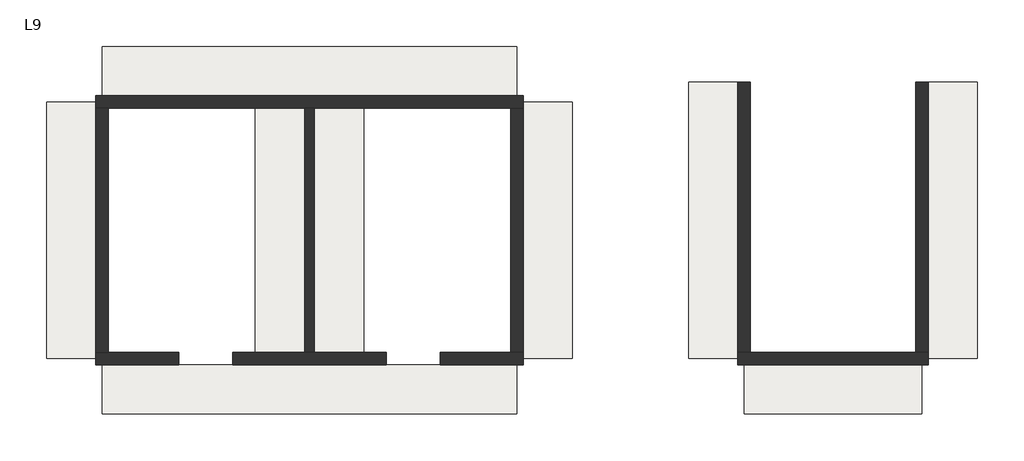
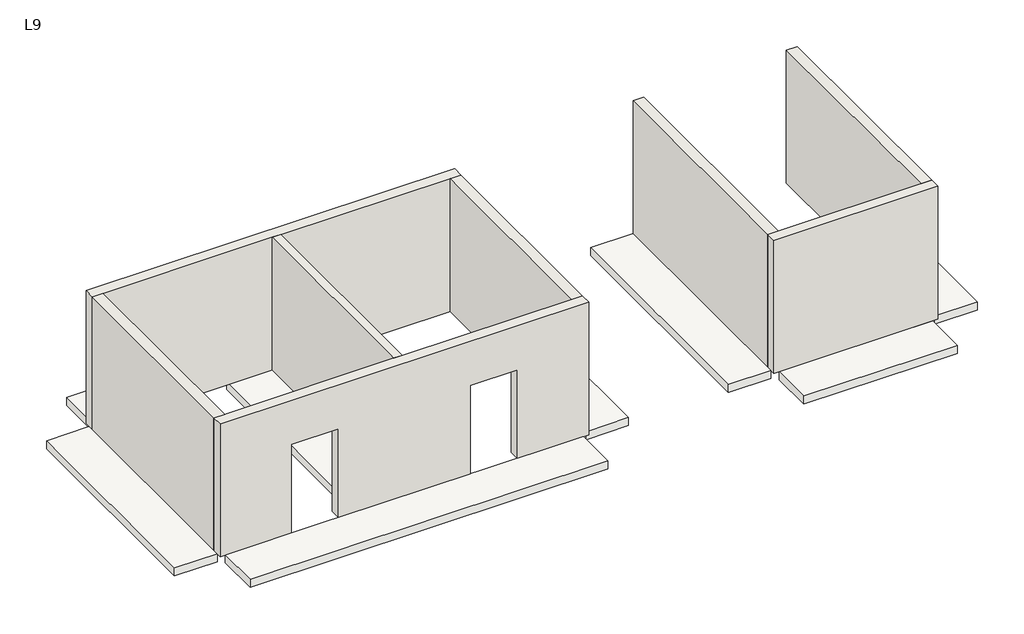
# One storey: 9 slabs, 8 walls.
"""IFC4 building model written with IfcOpenShell, lengths in millimetres."""

from ifc_helpers import new_model, si_unit, frame, origin, place, context, project, spatial, polyline, outline, extrude, faceted_brep, element, save

model = new_model("IFC4")

# Units and contexts
model_context = context("Model", 3, world=origin())
ifc_project = project(units=[si_unit("LENGTHUNIT", "METRE", prefix="MILLI")], contexts=[model_context])

# Site, building, storey
site = spatial("IfcSite", under=ifc_project)
building = spatial("IfcBuilding", under=site)
storey = spatial("IfcBuildingStorey", under=building, Name="L9", Elevation=27600.0)

# Slabs
placement = place(None, origin())
element("IfcSlab", 1, ObjectType="BS-Sàn 200", at=placement, inside=storey, context=model_context, shape_type="SweptSolid", body=[
    extrude(outline(polyline([(0.0, 6325.0), (8400.0, 6325.0), (8400.0, 5325.0), (0.0, 5325.0), (0.0, 6325.0)])), frame((0.0, 0.0, 27400.0), z_axis=(0.0, 0.0, 1.0), x_axis=(1.0, 0.0, 0.0)), (0.0, 0.0, 1.0), 200.0),
])
element("IfcSlab", 2, ObjectType="BS-Sàn 200", at=placement, inside=storey, context=model_context, shape_type="SweptSolid", body=[
    extrude(outline(polyline([(16725.0, 5600.0), (17725.0, 5600.0), (17725.0, 0.0), (16725.0, 0.0), (16725.0, 5600.0)])), frame((0.0, 0.0, 27400.0), z_axis=(0.0, 0.0, 1.0), x_axis=(1.0, 0.0, 0.0)), (0.0, 0.0, 1.0), 200.0),
])
element("IfcSlab", 3, ObjectType="BS-Sàn 200", at=placement, inside=storey, context=model_context, shape_type="SweptSolid", body=[
    extrude(outline(polyline([(11875.0, 5600.0), (12875.0, 5600.0), (12875.0, 0.0), (11875.0, 0.0), (11875.0, 5600.0)])), frame((0.0, 0.0, 27400.0), z_axis=(0.0, 0.0, 1.0), x_axis=(1.0, 0.0, 0.0)), (0.0, 0.0, 1.0), 200.0),
])
element("IfcSlab", 4, ObjectType="BS-Sàn 200", at=placement, inside=storey, context=model_context, shape_type="SweptSolid", body=[
    extrude(outline(polyline([(4300.0, 5200.0), (5300.0, 5200.0), (5300.0, 0.0), (4300.0, 0.0), (4300.0, 5200.0)])), frame((0.0, 0.0, 27400.0), z_axis=(0.0, 0.0, 1.0), x_axis=(1.0, 0.0, 0.0)), (0.0, 0.0, 1.0), 200.0),
])
element("IfcSlab", 5, ObjectType="BS-Sàn 200", at=placement, inside=storey, context=model_context, shape_type="SweptSolid", body=[
    extrude(outline(polyline([(3100.0, 5200.0), (4100.0, 5200.0), (4100.0, 0.0), (3100.0, 0.0), (3100.0, 5200.0)])), frame((0.0, 0.0, 27400.0), z_axis=(0.0, 0.0, 1.0), x_axis=(1.0, 0.0, 0.0)), (0.0, 0.0, 1.0), 200.0),
])
element("IfcSlab", 6, ObjectType="BS-Sàn 200", at=placement, inside=storey, context=model_context, shape_type="SweptSolid", body=[
    extrude(outline(polyline([(8525.0, 5200.0), (9525.0, 5200.0), (9525.0, 0.0), (8525.0, 0.0), (8525.0, 5200.0)])), frame((0.0, 0.0, 27400.0), z_axis=(0.0, 0.0, 1.0), x_axis=(1.0, 0.0, 0.0)), (0.0, 0.0, 1.0), 200.0),
])
element("IfcSlab", 7, ObjectType="BS-Sàn 200", at=placement, inside=storey, context=model_context, shape_type="SweptSolid", body=[
    extrude(outline(polyline([(-1125.0, 5200.0), (-125.0, 5200.0), (-125.0, 0.0), (-1125.0, 0.0), (-1125.0, 5200.0)])), frame((0.0, 0.0, 27400.0), z_axis=(0.0, 0.0, 1.0), x_axis=(1.0, 0.0, 0.0)), (0.0, 0.0, 1.0), 200.0),
])
element("IfcSlab", 8, ObjectType="BS-Sàn 200", at=placement, inside=storey, context=model_context, shape_type="SweptSolid", body=[
    extrude(outline(polyline([(13000.0, -125.0), (16600.0, -125.0), (16600.0, -1125.0), (13000.0, -1125.0), (13000.0, -125.0)])), frame((0.0, 0.0, 27400.0), z_axis=(0.0, 0.0, 1.0), x_axis=(1.0, 0.0, 0.0)), (0.0, 0.0, 1.0), 200.0),
])
element("IfcSlab", 9, ObjectType="BS-Sàn 200", at=placement, inside=storey, context=model_context, shape_type="SweptSolid", body=[
    extrude(outline(polyline([(0.0, -125.0), (8400.0, -125.0), (8400.0, -1125.0), (0.0, -1125.0), (0.0, -125.0)])), frame((0.0, 0.0, 27400.0), z_axis=(0.0, 0.0, 1.0), x_axis=(1.0, 0.0, 0.0)), (0.0, 0.0, 1.0), 200.0),
])

# Walls
element("IfcWall", 10, ObjectType="BS-Vách 250", at=placement, inside=storey, context=model_context, shape_type="Brep", body=[
    faceted_brep([(-125.0, 5075.0, 27600.0), (125.0, 5075.0, 27600.0), (4100.0, 5075.0, 27600.0), (4300.0, 5075.0, 27600.0), (8275.0, 5075.0, 27600.0), (8525.0, 5075.0, 27600.0), (8525.0, 5075.0, 30900.0), (8275.0, 5075.0, 30900.0), (4300.0, 5075.0, 30900.0), (4100.0, 5075.0, 30900.0), (125.0, 5075.0, 30900.0), (-125.0, 5075.0, 30900.0), (-125.0, 5325.0, 27600.0), (-125.0, 5325.0, 30900.0), (8525.0, 5325.0, 30900.0), (8525.0, 5325.0, 27600.0)], [[[0, 1, 2, 3, 4, 5, 6, 7, 8, 9, 10, 11]], [[12, 13, 14, 15]], [[5, 4, 3, 2, 1, 0, 12, 15]], [[11, 10, 9, 8, 7, 6, 14, 13]], [[6, 5, 15, 14]], [[0, 11, 13, 12]]]),
])
element("IfcWall", 11, ObjectType="BS-Vách 250", at=placement, inside=storey, context=model_context, shape_type="Brep", body=[
    faceted_brep([(8525.0, -125.0, 27600.0), (8525.0, -125.0, 30900.0), (-125.0, -125.0, 30900.0), (-125.0, -125.0, 27600.0), (1550.0, -125.0, 27600.0), (1550.0, -125.0, 29800.0), (2650.0, -125.0, 29800.0), (2650.0, -125.0, 27600.0), (5750.0, -125.0, 27600.0), (5750.0, -125.0, 29800.0), (6850.0, -125.0, 29800.0), (6850.0, -125.0, 27600.0), (8525.0, 125.0, 30900.0), (8525.0, 125.0, 27600.0), (8275.0, 125.0, 27600.0), (6850.0, 125.0, 27600.0), (6850.0, 125.0, 29800.0), (5750.0, 125.0, 29800.0), (5750.0, 125.0, 27600.0), (4300.0, 125.0, 27600.0), (4100.0, 125.0, 27600.0), (2650.0, 125.0, 27600.0), (2650.0, 125.0, 29800.0), (1550.0, 125.0, 29800.0), (1550.0, 125.0, 27600.0), (125.0, 125.0, 27600.0), (-125.0, 125.0, 27600.0), (-125.0, 125.0, 30900.0), (125.0, 125.0, 30900.0), (4100.0, 125.0, 30900.0), (4300.0, 125.0, 30900.0), (8275.0, 125.0, 30900.0)], [[[0, 1, 2, 3, 4, 5, 6, 7, 8, 9, 10, 11]], [[12, 13, 14, 15, 16, 17, 18, 19, 20, 21, 22, 23, 24, 25, 26, 27, 28, 29, 30, 31]], [[7, 21, 20, 19, 18, 8]], [[13, 0, 11, 15, 14]], [[3, 26, 25, 24, 4]], [[2, 1, 12, 31, 30, 29, 28, 27]], [[5, 23, 22, 6]], [[23, 5, 4, 24]], [[6, 22, 21, 7]], [[9, 17, 16, 10]], [[17, 9, 8, 18]], [[10, 16, 15, 11]], [[1, 0, 13, 12]], [[3, 2, 27, 26]]]),
])
element("IfcWall", 12, ObjectType="BS-Vách 250", at=placement, inside=storey, context=model_context, shape_type="SweptSolid", body=[
    extrude(outline(polyline([(125.0, 5075.0), (125.0, 125.0), (-125.0, 125.0), (-125.0, 5075.0), (125.0, 5075.0)])), frame((0.0, 0.0, 27600.0), z_axis=(0.0, 0.0, 1.0), x_axis=(1.0, 0.0, 0.0)), (0.0, 0.0, 1.0), 3300.0),
])
element("IfcWall", 13, ObjectType="BS-Vách 250", at=placement, inside=storey, context=model_context, shape_type="SweptSolid", body=[
    extrude(outline(polyline([(8525.0, 5075.0), (8525.0, 125.0), (8275.0, 125.0), (8275.0, 5075.0), (8525.0, 5075.0)])), frame((0.0, 0.0, 27600.0), z_axis=(0.0, 0.0, 1.0), x_axis=(1.0, 0.0, 0.0)), (0.0, 0.0, 1.0), 3300.0),
])
element("IfcWall", 14, ObjectType="BS-Vách 200", at=placement, inside=storey, context=model_context, shape_type="SweptSolid", body=[
    extrude(outline(polyline([(4300.0, 5075.0), (4300.0, 125.0), (4100.0, 125.0), (4100.0, 5075.0), (4300.0, 5075.0)])), frame((0.0, 0.0, 27600.0), z_axis=(0.0, 0.0, 1.0), x_axis=(1.0, 0.0, 0.0)), (0.0, 0.0, 1.0), 3300.0),
])
element("IfcWall", 15, ObjectType="BS-Vách 250", at=placement, inside=storey, context=model_context, shape_type="Brep", body=[
    faceted_brep([(12875.0, -125.0, 27600.0), (16725.0, -125.0, 27600.0), (16725.0, -125.0, 30900.0), (12875.0, -125.0, 30900.0), (12875.0, 125.0, 27600.0), (12875.0, 125.0, 30900.0), (13125.0, 125.0, 30900.0), (16475.0, 125.0, 30900.0), (16725.0, 125.0, 30900.0), (16725.0, 125.0, 27600.0), (16475.0, 125.0, 27600.0), (13125.0, 125.0, 27600.0)], [[[0, 1, 2, 3]], [[4, 5, 6, 7, 8, 9, 10, 11]], [[1, 0, 4, 11, 10, 9]], [[3, 2, 8, 7, 6, 5]], [[2, 1, 9, 8]], [[0, 3, 5, 4]]]),
])
element("IfcWall", 16, ObjectType="BS-Vách 250", at=placement, inside=storey, context=model_context, shape_type="SweptSolid", body=[
    extrude(outline(polyline([(13125.0, 5600.0), (13125.0, 125.0), (12875.0, 125.0), (12875.0, 5600.0), (13125.0, 5600.0)])), frame((0.0, 0.0, 27600.0), z_axis=(0.0, 0.0, 1.0), x_axis=(1.0, 0.0, 0.0)), (0.0, 0.0, 1.0), 3300.0),
])
element("IfcWall", 17, ObjectType="BS-Vách 250", at=placement, inside=storey, context=model_context, shape_type="SweptSolid", body=[
    extrude(outline(polyline([(16725.0, 5600.0), (16725.0, 125.0), (16475.0, 125.0), (16475.0, 5600.0), (16725.0, 5600.0)])), frame((0.0, 0.0, 27600.0), z_axis=(0.0, 0.0, 1.0), x_axis=(1.0, 0.0, 0.0)), (0.0, 0.0, 1.0), 3300.0),
])

save(model, "model.ifc")
